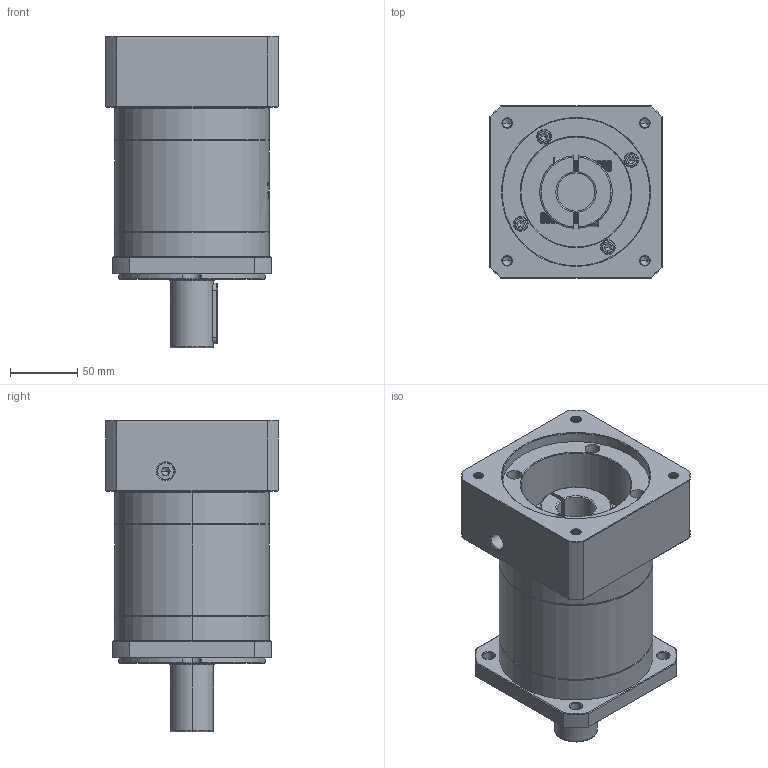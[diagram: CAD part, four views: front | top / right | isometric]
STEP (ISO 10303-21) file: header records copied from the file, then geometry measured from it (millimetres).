
FILE_DESCRIPTION (( 'STEP AP214' ), '1' );
FILE_NAME ('ZF120A-D32-L2-28-110-145-M8.step', '2023-03-07T09:34:38', ( '' ), ( '' ), 'SwSTEP 2.0', 'SolidWorks 2016', '' );
FILE_SCHEMA (( 'AUTOMOTIVE_DESIGN' ));
Length unit declared in the file: millimetre
Products named in the file (1): ZF120A-D32-L2-28-110-145-M8
Bounding box: 128 x 128 x 232 mm (x, y, z)
Volume: 1968602.2 mm3; surface area: 191304 mm2
Topology: 6 solids, 6 shells, 1939 faces, 5065 edges, 3223 vertices
Faces by surface type: plane 856, cylinder 420, cone 322, bspline 321, torus 20
Entity records: 106572 total; most frequent: CARTESIAN_POINT 41399, ORIENTED_EDGE 10070, DIRECTION 7801, EDGE_CURVE 5035, VERTEX_POINT 3223, LINE 2739, VECTOR 2739, AXIS2_PLACEMENT_3D 2531
